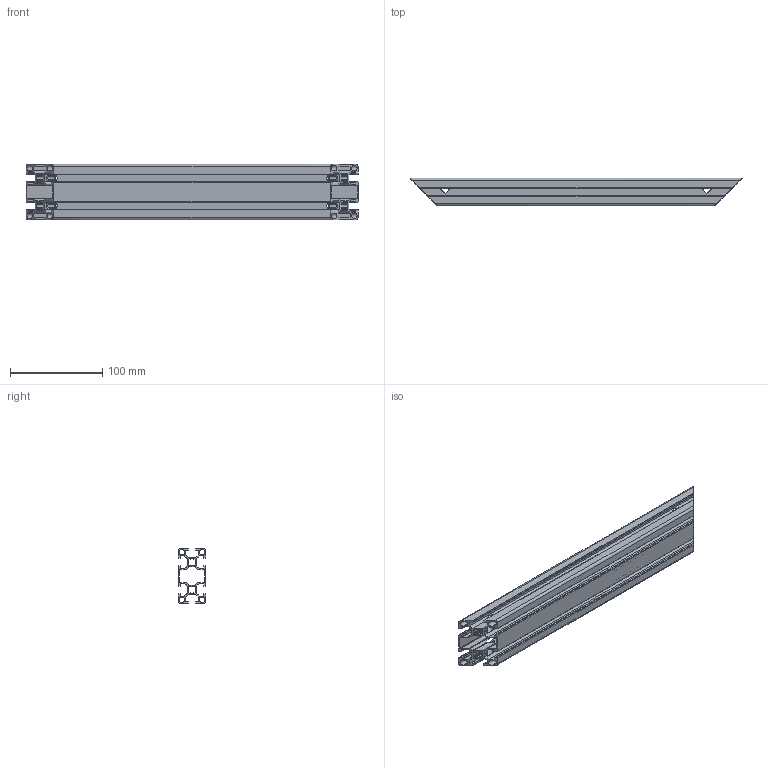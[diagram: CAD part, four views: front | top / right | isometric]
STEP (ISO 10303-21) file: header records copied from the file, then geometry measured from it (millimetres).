
FILE_DESCRIPTION (( 'STEP AP214' ), '1' );
FILE_NAME ('1.5035 Kulmatuki 30x60.STEP', '2024-10-08T13:45:18', ( '' ), ( '' ), 'SwSTEP 2.0', 'SolidWorks 2024', '' );
FILE_SCHEMA (( 'AUTOMOTIVE_DESIGN' ));
Length unit declared in the file: millimetre
Products named in the file (1): 1.5035 Kulmatuki 30x60
Bounding box: 360 x 30 x 60 mm (x, y, z)
Volume: 137921.5 mm3; surface area: 182952.5 mm2
Topology: 1 solids, 1 shells, 466 faces, 1488 edges, 992 vertices
Faces by surface type: cylinder 240, plane 226
Entity records: 17505 total; most frequent: CARTESIAN_POINT 5943, ORIENTED_EDGE 2976, DIRECTION 1798, EDGE_CURVE 1488, VERTEX_POINT 992, VECTOR 816, LINE 816, AXIS2_PLACEMENT_3D 491
